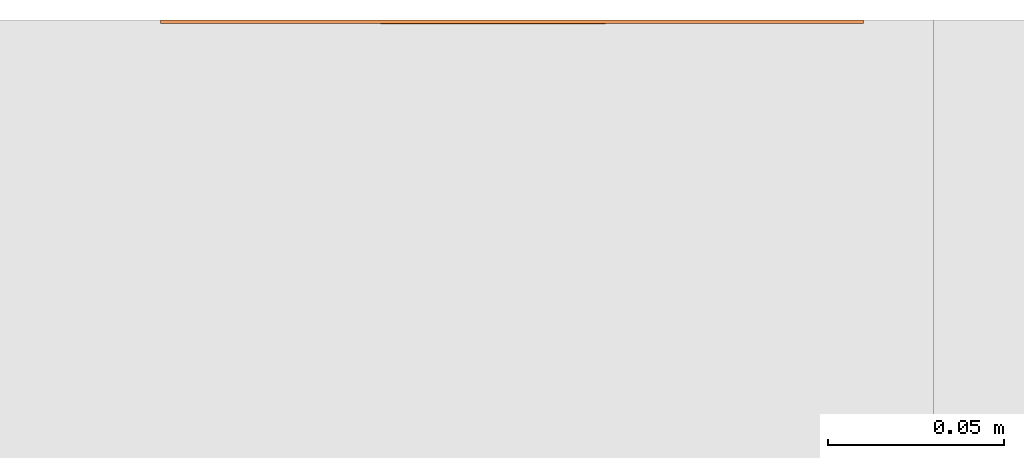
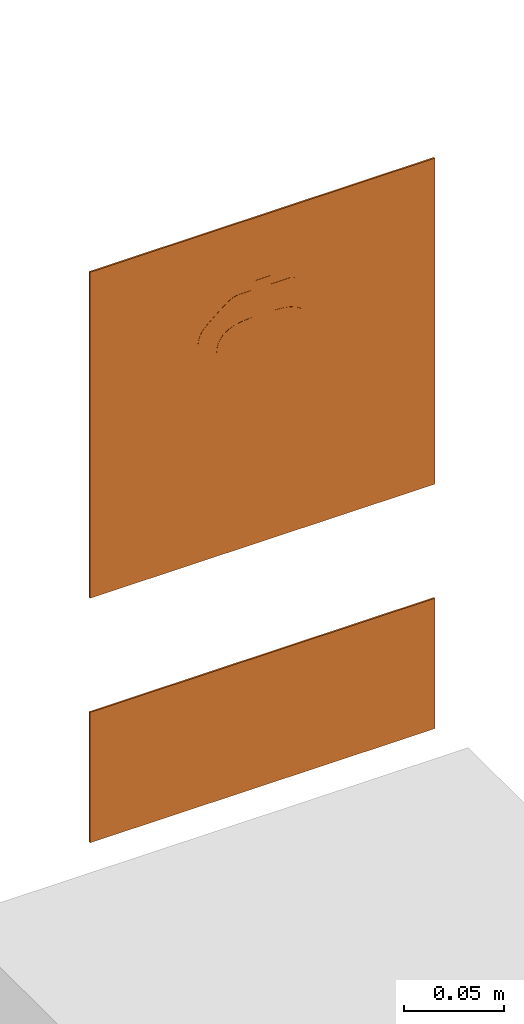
# One storey, part 117 of 119: 2 proxies.
"""IFC2X3 building model written with IfcOpenShell, lengths in metres."""

from ifc_helpers import new_model, entity, si_unit, converted_unit, derived_unit, direction, frame, frame_2d, origin, origin_2d_with_axis, place, context, subcontext, project, spatial, polyline, circle_curve, parameter, trimmed, segment, composite_curve, rectangle, outline, extrude, source, transform, mapped, material, material_list, type_object, type_shapes, element, save


model = new_model("IFC2X3")

# Units and contexts
model_context = context("Model", 3, precision=1e-05, world=origin(), true_north=direction((6.12303176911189e-17, 1.0)))
body_context = subcontext(model_context, "Body", "Model", "MODEL_VIEW")
ifc_project = project(units=[si_unit("LENGTHUNIT", "METRE"), si_unit("AREAUNIT", "SQUARE_METRE"), si_unit("VOLUMEUNIT", "CUBIC_METRE"), converted_unit("PLANEANGLEUNIT", "DEGREE", entity("IfcRatioMeasure", 0.0174532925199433), si_unit("PLANEANGLEUNIT", "RADIAN"), dimensions=[0, 0, 0, 0, 0, 0, 0]), si_unit("MASSUNIT", "GRAM", prefix="KILO"), derived_unit("MASSDENSITYUNIT", [(si_unit("MASSUNIT", "GRAM", prefix="KILO"), 1), (si_unit("LENGTHUNIT", "METRE"), -3)]), derived_unit("MOMENTOFINERTIAUNIT", [(si_unit("LENGTHUNIT", "METRE"), 4)]), si_unit("TIMEUNIT", "SECOND"), si_unit("FREQUENCYUNIT", "HERTZ"), si_unit("THERMODYNAMICTEMPERATUREUNIT", "DEGREE_CELSIUS"), derived_unit("THERMALTRANSMITTANCEUNIT", [(si_unit("MASSUNIT", "GRAM", prefix="KILO"), 1), (si_unit("THERMODYNAMICTEMPERATUREUNIT", "KELVIN"), -1), (si_unit("TIMEUNIT", "SECOND"), -3)]), derived_unit("VOLUMETRICFLOWRATEUNIT", [(si_unit("LENGTHUNIT", "METRE"), 3), (si_unit("TIMEUNIT", "SECOND"), -1)]), si_unit("ELECTRICCURRENTUNIT", "AMPERE"), si_unit("ELECTRICVOLTAGEUNIT", "VOLT"), si_unit("POWERUNIT", "WATT"), si_unit("FORCEUNIT", "NEWTON", prefix="KILO"), si_unit("ILLUMINANCEUNIT", "LUX"), si_unit("LUMINOUSFLUXUNIT", "LUMEN"), si_unit("LUMINOUSINTENSITYUNIT", "CANDELA"), derived_unit("USERDEFINED", [(si_unit("MASSUNIT", "GRAM", prefix="KILO"), -1), (si_unit("LENGTHUNIT", "METRE"), -2), (si_unit("TIMEUNIT", "SECOND"), 3), (si_unit("LUMINOUSFLUXUNIT", "LUMEN"), 1)]), derived_unit("LINEARVELOCITYUNIT", [(si_unit("LENGTHUNIT", "METRE"), 1), (si_unit("TIMEUNIT", "SECOND"), -1)]), si_unit("PRESSUREUNIT", "PASCAL"), derived_unit("USERDEFINED", [(si_unit("LENGTHUNIT", "METRE"), -2), (si_unit("MASSUNIT", "GRAM", prefix="KILO"), 1), (si_unit("TIMEUNIT", "SECOND"), -2)]), derived_unit("LINEARFORCEUNIT", [(si_unit("MASSUNIT", "GRAM", prefix="KILO"), 1), (si_unit("LENGTHUNIT", "METRE"), 1), (si_unit("TIMEUNIT", "SECOND"), -2), (si_unit("LENGTHUNIT", "METRE"), -1)]), derived_unit("PLANARFORCEUNIT", [(si_unit("MASSUNIT", "GRAM", prefix="KILO"), 1), (si_unit("LENGTHUNIT", "METRE"), 1), (si_unit("TIMEUNIT", "SECOND"), -2), (si_unit("LENGTHUNIT", "METRE"), -2)])], contexts=[model_context])

# Site, building, storey
site_placement = place(None, origin())
site = spatial("IfcSite", under=ifc_project, at=site_placement, Name="Default", CompositionType="ELEMENT")
building_placement = place(site_placement, origin())
building = spatial("IfcBuilding", under=site, at=building_placement, CompositionType="ELEMENT")
storey_placement = place(building_placement, origin())
storey = spatial("IfcBuildingStorey", under=building, at=storey_placement, Name="PAV. 01 - TÉRREO", CompositionType="ELEMENT", Elevation=0.0)

# Proxies
ifc_material_1 = material(Name="Plastico branco")
ifc_material_2 = material(Name="Plastico vermelho")
ifc_material_list_1 = material_list([ifc_material_1, ifc_material_2])
building_element_proxy_type_1 = type_object("IfcBuildingElementProxyType", Name="Sinalização de equipamentos - E05 - Extintor de incêndio:Distância 08m", PredefinedType="NOTDEFINED", material=ifc_material_1)
shared_shape_1 = source(origin(), body_context, "Body", "SweptSolid", [
    extrude(outline(composite_curve([segment(polyline([(-0.039533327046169, -0.0988107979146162), (0.0136590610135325, -0.0988107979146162)]), True, "CONTINUOUS"), segment(polyline([(0.0136590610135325, -0.0988107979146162), (0.0136590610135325, -0.0150548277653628)]), True, "CONTINUOUS"), segment(polyline([(0.0136590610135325, -0.0150548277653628), (0.0132403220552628, -0.0112272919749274)]), True, "CONTINUOUS"), segment(polyline([(0.0132403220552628, -0.0112272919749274), (0.0119841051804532, -0.00798860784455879)]), True, "CONTINUOUS"), segment(polyline([(0.0119841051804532, -0.00798860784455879), (0.00989041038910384, -0.00533877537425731)]), True, "CONTINUOUS"), segment(polyline([(0.00989041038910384, -0.00533877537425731), (0.00695923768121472, -0.00327779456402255)]), True, "CONTINUOUS"), segment(polyline([(0.00695923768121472, -0.00327779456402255), (0.00319058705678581, -0.00180566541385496)]), True, "CONTINUOUS"), segment(polyline([(0.00319058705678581, -0.00180566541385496), (-0.00141554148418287, -0.000922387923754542)]), True, "CONTINUOUS"), segment(polyline([(-0.00141554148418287, -0.000922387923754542), (-0.00685914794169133, -0.000627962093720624)]), True, "CONTINUOUS"), segment(polyline([(-0.00685914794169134, -0.000627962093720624), (-0.00685914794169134, 0.00837547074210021)]), True, "CONTINUOUS"), segment(polyline([(-0.00685914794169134, 0.00837547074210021), (0.000568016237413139, 0.00837547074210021)]), True, "CONTINUOUS"), segment(polyline([(0.000568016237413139, 0.00837547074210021), (0.021500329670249, -0.0075875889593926)]), True, "CONTINUOUS"), segment(polyline([(0.021500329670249, -0.0075875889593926), (0.021500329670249, -0.0104328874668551)]), True, "CONTINUOUS"), segment(polyline([(0.021500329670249, -0.0104328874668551), (0.0245059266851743, -0.0104328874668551)]), True, "CONTINUOUS"), segment(polyline([(0.0245059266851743, -0.0104328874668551), (0.0245059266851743, -0.00811335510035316)]), True, "CONTINUOUS"), segment(polyline([(0.0245059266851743, -0.00811335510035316), (0.0243642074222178, -0.00545038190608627)]), True, "CONTINUOUS"), segment(polyline([(0.0243642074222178, -0.00545038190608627), (0.0239570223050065, -0.0032112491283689)]), True, "CONTINUOUS"), segment(polyline([(0.0239570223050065, -0.0032112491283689), (0.0233113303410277, -0.00132119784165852)]), True, "CONTINUOUS"), segment(polyline([(0.0233113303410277, -0.00132119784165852), (0.0224540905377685, 0.00029453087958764)]), True, "CONTINUOUS"), segment(polyline([(0.0224540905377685, 0.00029453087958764), (0.0214122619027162, 0.00171069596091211)]), True, "CONTINUOUS"), segment(polyline([(0.0214122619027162, 0.00171069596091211), (0.0202128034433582, 0.00300205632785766)]), True, "CONTINUOUS"), segment(polyline([(0.0202128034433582, 0.00300205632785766), (0.0188826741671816, 0.00424337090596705)]), True, "CONTINUOUS"), segment(polyline([(0.0188826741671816, 0.00424337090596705), (0.0144021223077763, 0.00811180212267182)]), True, "CONTINUOUS"), segment(polyline([(0.0144021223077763, 0.00811180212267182), (0.0113518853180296, 0.0106145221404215)]), True, "CONTINUOUS"), segment(polyline([(0.0113518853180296, 0.0106145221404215), (0.0085825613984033, 0.0127576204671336)]), True, "CONTINUOUS"), segment(polyline([(0.0085825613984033, 0.0127576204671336), (0.00738733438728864, 0.0136170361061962)]), True, "CONTINUOUS"), segment(polyline([(0.00738733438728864, 0.0136170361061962), (0.00631521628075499, 0.0143235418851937)]), True, "CONTINUOUS"), segment(polyline([(0.00631521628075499, 0.0143235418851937), (0.00532850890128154, 0.0148903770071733)]), True, "CONTINUOUS"), segment(polyline([(0.00532850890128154, 0.0148903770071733), (0.00438926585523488, 0.0153309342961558)]), True, "CONTINUOUS"), segment(polyline([(0.00438926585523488, 0.0153309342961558), (0.00345954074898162, 0.0156586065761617)]), True, "CONTINUOUS"), segment(polyline([(0.00345954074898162, 0.0156586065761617), (0.00250138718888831, 0.0158867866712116)]), True, "CONTINUOUS"), segment(polyline([(0.00250138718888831, 0.0158867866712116), (0.00144087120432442, 0.0160289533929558)]), True, "CONTINUOUS"), segment(polyline([(0.00144087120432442, 0.0160289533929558), (-0.000108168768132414, 0.0160993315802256)]), True, "CONTINUOUS"), segment(polyline([(-0.000108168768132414, 0.0160993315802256), (-0.00685914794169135, 0.0160831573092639)]), True, "CONTINUOUS"), segment(polyline([(-0.00685914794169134, 0.0160831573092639), (-0.00685914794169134, 0.0213863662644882)]), True, "CONTINUOUS"), segment(polyline([(-0.00685914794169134, 0.0213863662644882), (-0.0177728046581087, 0.0213863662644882)]), True, "CONTINUOUS"), segment(polyline([(-0.0177728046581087, 0.0213863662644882), (-0.0177728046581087, 0.0160831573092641)]), True, "CONTINUOUS"), segment(polyline([(-0.0177728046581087, 0.0160831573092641), (-0.0288467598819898, 0.0160831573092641)]), True, "CONTINUOUS"), segment(trimmed(circle_curve(frame_2d((-0.0288467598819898, 0.0122293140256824), x_axis=(-1.0, 0.0)), 0.00385384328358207), [parameter(270.0)], [parameter(90.0000000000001)], True, "PARAMETER"), True, "CONTINUOUS"), segment(polyline([(-0.0288467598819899, 0.00837547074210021), (-0.0190151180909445, 0.00837547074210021)]), True, "CONTINUOUS"), segment(polyline([(-0.0190151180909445, 0.00837547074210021), (-0.0190151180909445, -0.000627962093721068)]), True, "CONTINUOUS"), segment(polyline([(-0.0190151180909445, -0.000627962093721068), (-0.024458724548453, -0.000922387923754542)]), True, "CONTINUOUS"), segment(polyline([(-0.024458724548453, -0.000922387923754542), (-0.0290648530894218, -0.00180566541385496)]), True, "CONTINUOUS"), segment(polyline([(-0.0290648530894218, -0.00180566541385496), (-0.0328335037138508, -0.00327779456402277)]), True, "CONTINUOUS"), segment(polyline([(-0.0328335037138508, -0.00327779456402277), (-0.03576467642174, -0.00533877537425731)]), True, "CONTINUOUS"), segment(polyline([(-0.03576467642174, -0.00533877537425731), (-0.0378583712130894, -0.00798860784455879)]), True, "CONTINUOUS"), segment(polyline([(-0.0378583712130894, -0.00798860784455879), (-0.0391145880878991, -0.0112272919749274)]), True, "CONTINUOUS"), segment(polyline([(-0.0391145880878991, -0.0112272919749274), (-0.039533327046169, -0.0150548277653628)]), True, "CONTINUOUS"), segment(polyline([(-0.039533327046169, -0.0150548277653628), (-0.039533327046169, -0.0988107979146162)]), True, "CONTINUOUS")], self_intersect=False)), frame((-0.0129371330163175, -0.0011, 1.94006139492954), z_axis=(0.0, 1.0, 0.0), x_axis=(-1.0, 0.0, 0.0)), (0.0, 0.0, 1.0), 0.0011),
    extrude(rectangle(XDim=0.001, YDim=0.179, at=origin_2d_with_axis()), frame((0.0, -0.0005, 1.8105), z_axis=(0.0, 0.0, 1.0), x_axis=(0.0, 1.0, 0.0)), (0.0, 0.0, 1.0), 0.179),
    extrude(outline(polyline([(-0.100000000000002, -0.1), (0.100000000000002, -0.1), (0.100000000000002, 0.1), (-0.100000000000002, 0.1), (-0.100000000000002, -0.1)]), holes=[polyline([(-0.0895000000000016, -0.0895000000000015), (-0.0895000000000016, 0.0894999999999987), (0.0894999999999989, 0.0894999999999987), (0.0894999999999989, -0.0895000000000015), (-0.0895000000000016, -0.0895000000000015)])]), frame((0.0, -0.001, 1.9), z_axis=(0.0, 1.0, 0.0), x_axis=(0.0, 0.0, -1.0)), (0.0, 0.0, 1.0), 0.001),
])
type_shapes(building_element_proxy_type_1, [shared_shape_1])
proxy_1_placement = place(storey_placement, frame((59.8345522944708, 74.8067778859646, 0.0)))
element("IfcBuildingElementProxy", 1, at=proxy_1_placement, inside=storey, type_object=building_element_proxy_type_1, material=ifc_material_list_1, Name="Sinalização de equipamentos - E05 - Extintor de incêndio:Distância 08m", ObjectType="Sinalização de equipamentos - E05 - Extintor de incêndio:Distância 08m", context=body_context, shape_type="MappedRepresentation", body=[
    mapped(shared_shape_1, transform((0.0, 0.0, 0.0), scale=1.0)),
])
ifc_material_3 = material(Name="Plastico Preto")
ifc_material_4 = material(Name="Plastico azul claro")
ifc_material_5 = material(Name="Plastico Verde")
ifc_material_list_2 = material_list([ifc_material_3, ifc_material_4, ifc_material_2, ifc_material_1, ifc_material_5])
building_element_proxy_type_2 = type_object("IfcBuildingElementProxyType", Name="Sinalização de equipamentos - E05 - Extintor de incêndio - TIPO 2:Placa de extintor - E6-A", PredefinedType="NOTDEFINED", material=ifc_material_3)
shared_shape_2 = source(origin(), body_context, "Body", "SweptSolid", [
    extrude(rectangle(XDim=0.001, YDim=0.0243464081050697, at=origin_2d_with_axis()), frame((0.0791678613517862, -0.0005, 0.0143679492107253), z_axis=(0.0, 0.0, 1.0), x_axis=(0.0, 1.0, 0.0)), (0.0, 0.0, 1.0), 0.0243153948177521),
    extrude(rectangle(XDim=0.001, YDim=0.0243464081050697, at=origin_2d_with_axis()), frame((0.0514092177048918, -0.0005, 0.0143679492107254), z_axis=(0.0, 0.0, 1.0), x_axis=(0.0, 1.0, 0.0)), (0.0, 0.0, 1.0), 0.0243153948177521),
    extrude(rectangle(XDim=0.001, YDim=0.0243464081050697, at=origin_2d_with_axis()), frame((0.023605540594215, -0.0005, 0.0143679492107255), z_axis=(0.0, 0.0, 1.0), x_axis=(0.0, 1.0, 0.0)), (0.0, 0.0, 1.0), 0.0243153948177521),
    extrude(rectangle(XDim=0.001, YDim=0.0243464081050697, at=origin_2d_with_axis()), frame((-0.00415310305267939, -0.0005, 0.0143679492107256), z_axis=(0.0, 0.0, 1.0), x_axis=(0.0, 1.0, 0.0)), (0.0, 0.0, 1.0), 0.0243153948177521),
    extrude(outline(polyline([(-0.0399999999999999, -0.1), (0.0399999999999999, -0.1), (0.0399999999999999, 0.1), (-0.0399999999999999, 0.1), (-0.0399999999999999, -0.1)]), holes=[polyline([(-0.0319999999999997, 0.091), (-0.0150022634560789, 0.091), (-0.0150022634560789, -0.091), (-0.0319999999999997, -0.091), (-0.0319999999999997, 0.091)]), polyline([(-0.010791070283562, 0.091), (0.0319999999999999, 0.091), (0.0319999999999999, 0.0473282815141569), (-0.010791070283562, 0.0473282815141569), (-0.010791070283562, 0.091)]), polyline([(0.00131665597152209, 0.0441091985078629), (0.0256320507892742, 0.0441091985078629), (0.0256320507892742, 0.0197627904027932), (0.00131665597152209, 0.0197627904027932), (0.00131665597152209, 0.0441091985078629)]), polyline([(0.00131665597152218, 0.0163263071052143), (0.0256320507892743, 0.0163263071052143), (0.0256320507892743, -0.00802010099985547), (0.00131665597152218, -0.00802010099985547), (0.00131665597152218, 0.0163263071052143)]), polyline([(0.00131665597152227, -0.0114323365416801), (0.0256320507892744, -0.0114323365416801), (0.0256320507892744, -0.0357787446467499), (0.00131665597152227, -0.0357787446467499), (0.00131665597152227, -0.0114323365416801)]), polyline([(0.00131665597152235, -0.0635824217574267), (0.00131665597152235, -0.039236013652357), (0.0256320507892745, -0.039236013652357), (0.0256320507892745, -0.0635824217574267), (0.00131665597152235, -0.0635824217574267)]), polyline([(0.00131665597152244, -0.0669946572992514), (0.0256320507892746, -0.0669946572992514), (0.0256320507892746, -0.091), (0.00131665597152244, -0.091), (0.00131665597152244, -0.0669946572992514)])]), frame((0.0, -0.001, 0.0399999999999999), z_axis=(0.0, 1.0, 0.0), x_axis=(0.0, 0.0, -1.0)), (0.0, 0.0, 1.0), 0.001),
    extrude(outline(composite_curve([segment(trimmed(circle_curve(frame_2d((-0.00182713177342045, 0.0030692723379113), x_axis=(1.0, 0.0)), 0.00333179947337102), [parameter(180.0)], [parameter(270.0)], True, "PARAMETER"), True, "CONTINUOUS"), segment(polyline([(-0.00182713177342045, -0.000262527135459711), (-0.000430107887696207, -0.000262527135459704)]), True, "CONTINUOUS"), segment(polyline([(-0.000430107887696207, -0.000262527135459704), (-0.000430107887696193, -0.00350797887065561)]), True, "CONTINUOUS"), segment(polyline([(-0.000430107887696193, -0.00350797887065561), (-0.00249820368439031, -0.00350797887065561)]), True, "CONTINUOUS"), segment(polyline([(-0.00249820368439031, -0.00350797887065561), (-0.00742535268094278, 7.18044171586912e-05)]), True, "CONTINUOUS"), segment(polyline([(-0.00742535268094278, 7.18044171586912e-05), (-0.00742535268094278, 0.00166630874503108)]), True, "CONTINUOUS"), segment(polyline([(-0.00742535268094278, 0.00166630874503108), (-0.00871124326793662, 0.00166630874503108)]), True, "CONTINUOUS"), segment(polyline([(-0.00871124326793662, 0.00166630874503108), (-0.00846384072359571, -0.00134355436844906)]), True, "CONTINUOUS"), segment(trimmed(circle_curve(frame_2d((-0.00608099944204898, -0.00114769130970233), x_axis=(1.0, 0.0)), 0.00239087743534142), [parameter(184.698993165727)], [parameter(232.0)], True, "PARAMETER"), True, "CONTINUOUS"), segment(polyline([(-0.00755297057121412, -0.00303172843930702), (-0.0030496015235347, -0.00655014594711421)]), True, "CONTINUOUS"), segment(polyline([(-0.0030496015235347, -0.00655014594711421), (-0.000124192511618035, -0.00655014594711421)]), True, "CONTINUOUS"), segment(polyline([(-0.000124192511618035, -0.00655014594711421), (-0.000124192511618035, -0.00788602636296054)]), True, "CONTINUOUS"), segment(polyline([(-0.000124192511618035, -0.00788602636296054), (0.003207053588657, -0.00788602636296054)]), True, "CONTINUOUS"), segment(polyline([(0.003207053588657, -0.00788602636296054), (0.003207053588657, -0.00698801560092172)]), True, "CONTINUOUS"), segment(polyline([(0.003207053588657, -0.00698801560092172), (0.00540783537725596, -0.00698801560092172)]), True, "CONTINUOUS"), segment(polyline([(0.00540783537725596, -0.00698801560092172), (0.00665542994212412, -0.00574042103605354)]), True, "CONTINUOUS"), segment(polyline([(0.00665542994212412, -0.00574042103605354), (0.00665542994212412, -0.00450724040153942)]), True, "CONTINUOUS"), segment(polyline([(0.00665542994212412, -0.00450724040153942), (0.00491919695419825, -0.00324579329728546)]), True, "CONTINUOUS"), segment(polyline([(0.00491919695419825, -0.00324579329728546), (0.00355615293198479, -0.00324579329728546)]), True, "CONTINUOUS"), segment(polyline([(0.00355615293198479, -0.00324579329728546), (0.00355615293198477, -0.000262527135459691)]), True, "CONTINUOUS"), segment(polyline([(0.00355615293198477, -0.000262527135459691), (0.00500257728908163, -0.000262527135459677)]), True, "CONTINUOUS"), segment(trimmed(circle_curve(frame_2d((0.00500257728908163, 0.00284153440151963), x_axis=(1.0, 0.0)), 0.00310406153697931), [parameter(270.0)], [parameter(1.52666624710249e-13)], True, "PARAMETER"), True, "CONTINUOUS"), segment(polyline([(0.00810663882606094, 0.00284153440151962), (0.0081066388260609, 0.0313568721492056)]), True, "CONTINUOUS"), segment(polyline([(0.0081066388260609, 0.0313568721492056), (-0.00515893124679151, 0.0313568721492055)]), True, "CONTINUOUS"), segment(polyline([(-0.00515893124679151, 0.0313568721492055), (-0.00515893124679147, 0.00306927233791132)]), True, "CONTINUOUS")], self_intersect=False)), frame((-0.0705753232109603, -0.001, 0.0413479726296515), z_axis=(0.0, 1.0, 0.0), x_axis=(1.0, 0.0, 0.0)), (0.0, 0.0, 1.0), 0.001),
    extrude(rectangle(XDim=0.001, YDim=0.0243464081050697, at=origin_2d_with_axis()), frame((-0.0319359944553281, -0.0005, 0.0143679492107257), z_axis=(0.0, 0.0, 1.0), x_axis=(0.0, 1.0, 0.0)), (0.0, 0.0, 1.0), 0.0243153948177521),
    extrude(outline(polyline([(-0.0218358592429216, -0.021395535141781), (0.0218358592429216, -0.021395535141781), (0.0218358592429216, 0.021395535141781), (-0.0218358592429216, 0.021395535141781), (-0.0218358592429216, -0.021395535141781)]), holes=[composite_curve([segment(polyline([(-0.00669545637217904, -0.0194044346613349), (-0.00669545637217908, 0.00911090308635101)]), True, "CONTINUOUS"), segment(trimmed(circle_curve(frame_2d((-0.00359139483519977, 0.00911090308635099), x_axis=(-1.0, 0.0)), 0.00310406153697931), [parameter(270.0)], [parameter(360.0)], True, "PARAMETER"), False, "CONTINUOUS"), segment(polyline([(-0.0035913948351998, 0.0122149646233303), (-0.00214497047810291, 0.0122149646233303)]), True, "CONTINUOUS"), segment(polyline([(-0.00214497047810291, 0.0122149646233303), (-0.00214497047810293, 0.0151982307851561)]), True, "CONTINUOUS"), segment(polyline([(-0.00214497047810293, 0.0151982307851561), (-0.0035080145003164, 0.0151982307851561)]), True, "CONTINUOUS"), segment(polyline([(-0.0035080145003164, 0.0151982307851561), (-0.00524424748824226, 0.01645967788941)]), True, "CONTINUOUS"), segment(polyline([(-0.00524424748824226, 0.01645967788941), (-0.00524424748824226, 0.0176928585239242)]), True, "CONTINUOUS"), segment(polyline([(-0.00524424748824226, 0.0176928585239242), (-0.0039966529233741, 0.0189404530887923)]), True, "CONTINUOUS"), segment(polyline([(-0.0039966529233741, 0.0189404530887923), (-0.00179587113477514, 0.0189404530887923)]), True, "CONTINUOUS"), segment(polyline([(-0.00179587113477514, 0.0189404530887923), (-0.00179587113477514, 0.0198384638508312)]), True, "CONTINUOUS"), segment(polyline([(-0.00179587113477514, 0.0198384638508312), (0.00153537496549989, 0.0198384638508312)]), True, "CONTINUOUS"), segment(polyline([(0.00153537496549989, 0.0198384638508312), (0.00153537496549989, 0.0185025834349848)]), True, "CONTINUOUS"), segment(polyline([(0.00153537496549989, 0.0185025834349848), (0.00446078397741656, 0.0185025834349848)]), True, "CONTINUOUS"), segment(polyline([(0.00446078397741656, 0.0185025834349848), (0.00896415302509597, 0.0149841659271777)]), True, "CONTINUOUS"), segment(trimmed(circle_curve(frame_2d((0.00749218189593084, 0.0131001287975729), x_axis=(-1.0, 0.0)), 0.00239087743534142), [parameter(184.698993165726)], [parameter(231.999999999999)], True, "PARAMETER"), False, "CONTINUOUS"), segment(polyline([(0.00987502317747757, 0.0132959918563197), (0.0101224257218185, 0.0102861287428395)]), True, "CONTINUOUS"), segment(polyline([(0.0101224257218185, 0.0102861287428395), (0.00883653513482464, 0.0102861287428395)]), True, "CONTINUOUS"), segment(polyline([(0.00883653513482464, 0.0102861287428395), (0.00883653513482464, 0.0118806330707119)]), True, "CONTINUOUS"), segment(polyline([(0.00883653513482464, 0.0118806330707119), (0.00390938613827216, 0.0154604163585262)]), True, "CONTINUOUS"), segment(polyline([(0.00390938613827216, 0.0154604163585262), (0.00184129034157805, 0.0154604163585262)]), True, "CONTINUOUS"), segment(polyline([(0.00184129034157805, 0.0154604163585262), (0.00184129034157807, 0.0122149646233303)]), True, "CONTINUOUS"), segment(polyline([(0.00184129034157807, 0.0122149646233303), (0.00323831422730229, 0.0122149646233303)]), True, "CONTINUOUS"), segment(trimmed(circle_curve(frame_2d((0.00323831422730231, 0.00888316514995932), x_axis=(-1.0, 0.0)), 0.00333179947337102), [parameter(180.0)], [parameter(270.0)], True, "PARAMETER"), False, "CONTINUOUS"), segment(polyline([(0.00657011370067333, 0.00888316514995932), (0.00657011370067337, -0.0194044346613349)]), True, "CONTINUOUS"), segment(polyline([(0.00657011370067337, -0.0194044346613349), (-0.00669545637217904, -0.0194044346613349)]), True, "CONTINUOUS")], self_intersect=False)]), frame((-0.0691641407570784, -0.001, 0.0293955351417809), z_axis=(0.0, 1.0, 0.0), x_axis=(-1.0, 0.0, 0.0)), (0.0, 0.0, 1.0), 0.001),
    extrude(rectangle(XDim=0.001, YDim=0.182, at=origin_2d_with_axis()), frame((0.0, -0.0005, 0.0550022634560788), z_axis=(0.0, 0.0, 1.0), x_axis=(0.0, 1.0, 0.0)), (0.0, 0.0, 1.0), 0.0169977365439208),
])
type_shapes(building_element_proxy_type_2, [shared_shape_2])
proxy_2_placement = place(storey_placement, frame((59.8345522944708, 74.8067778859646, 1.65)))
element("IfcBuildingElementProxy", 2, at=proxy_2_placement, inside=storey, type_object=building_element_proxy_type_2, material=ifc_material_list_2, Name="Sinalização de equipamentos - E05 - Extintor de incêndio - TIPO 2:Placa de extintor - E6-A", ObjectType="Sinalização de equipamentos - E05 - Extintor de incêndio - TIPO 2:Placa de extintor - E6-A", context=body_context, shape_type="MappedRepresentation", body=[
    mapped(shared_shape_2, transform((0.0, 0.0, 0.0), scale=1.0)),
])

save(model, "model.ifc")
